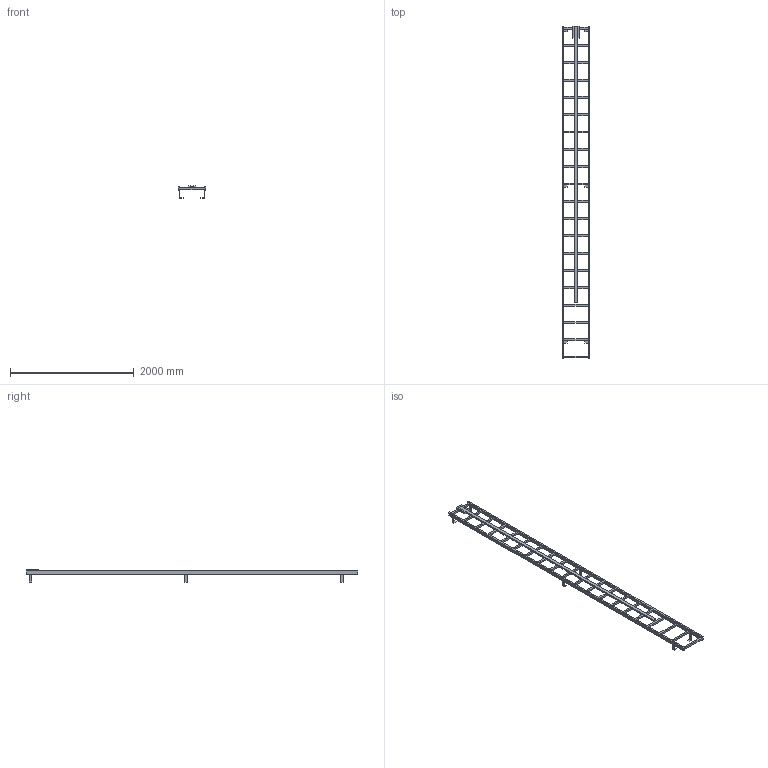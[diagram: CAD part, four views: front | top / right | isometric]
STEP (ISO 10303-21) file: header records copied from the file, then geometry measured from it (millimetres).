
FILE_DESCRIPTION((''),'2;1');
FILE_NAME('017_000109','2017-06-19T',('set'),('HUBER SE'),'PRO/ENGINEER BY PARAMETRIC TECHNOLOGY CORPORATION, 2015280','PRO/ENGINEER BY PARAMETRIC TECHNOLOGY CORPORATION, 2015280','');
FILE_SCHEMA(('CONFIG_CONTROL_DESIGN'));
Length unit declared in the file: millimetre
Products named in the file (1): 017_000109
Bounding box: 450 x 5370 x 195 mm (x, y, z)
Volume: 28983060 mm3; surface area: 3474820 mm2
Topology: 1 solids, 1 shells, 184 faces, 671 edges, 453 vertices
Faces by surface type: plane 184
Entity records: 6980 total; most frequent: CARTESIAN_POINT 1369, ORIENTED_EDGE 1140, DIRECTION 1034, VECTOR 624, LINE 624, EDGE_CURVE 570, VERTEX_POINT 352, EDGE_LOOP 216
